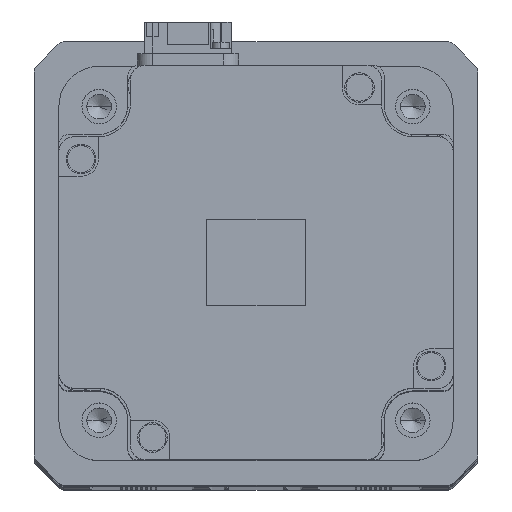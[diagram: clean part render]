
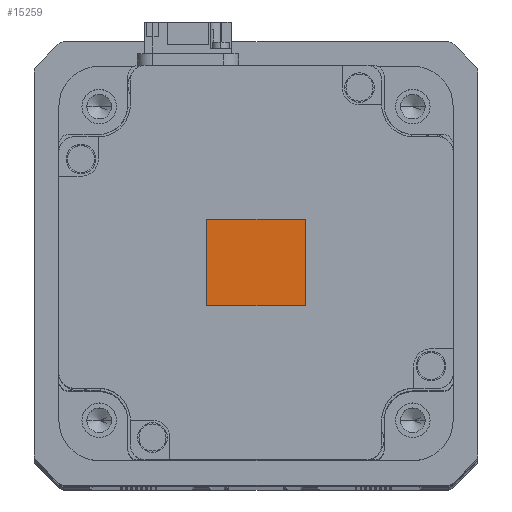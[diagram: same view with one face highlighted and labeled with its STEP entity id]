
A CAD part, top view. The second image highlights one B-rep face of the part: STEP entity #15259.
In plain terms, the highlighted planar face has unit normal (0, 0, 1) as drawn and (0, 0, -1) by its records, which use the part's own axes.
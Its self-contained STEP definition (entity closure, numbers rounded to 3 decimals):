
#109 = CARTESIAN_POINT ( 'NONE',  ( -10., -8.75, -115.1 ) ) ;
#1068 = CARTESIAN_POINT ( 'NONE',  ( 10., -8.75, -115.1 ) ) ;
#2951 = DIRECTION ( 'NONE',  ( 0., 0., -1. ) ) ;
#3345 = ORIENTED_EDGE ( 'NONE', *, *, #5284, .T. ) ;
#3794 = CARTESIAN_POINT ( 'NONE',  ( 10., 8.75, -115.1 ) ) ;
#4168 = EDGE_LOOP ( 'NONE', ( #39189, #18584, #7467, #3345 ) ) ;
#5284 = EDGE_CURVE ( 'NONE', #35318, #37036, #8235, .T. ) ;
#5741 = DIRECTION ( 'NONE',  ( 0., 1., 0. ) ) ;
#7467 = ORIENTED_EDGE ( 'NONE', *, *, #37673, .T. ) ;
#8225 = EDGE_CURVE ( 'NONE', #37036, #33849, #33097, .T. ) ;
#8235 = LINE ( 'NONE', #31434, #25689 ) ;
#13544 = VECTOR ( 'NONE', #31714, 1000. ) ;
#14444 = VERTEX_POINT ( 'NONE', #43829 ) ;
#15259 = ADVANCED_FACE ( 'NONE', ( #24466 ), #30726, .T. ) ;
#16874 = CARTESIAN_POINT ( 'NONE',  ( -10., 8.75, -115.1 ) ) ;
#18386 = DIRECTION ( 'NONE',  ( 1., 0., 0. ) ) ;
#18584 = ORIENTED_EDGE ( 'NONE', *, *, #20587, .T. ) ;
#20587 = EDGE_CURVE ( 'NONE', #33849, #14444, #45278, .T. ) ;
#22780 = LINE ( 'NONE', #3794, #13544 ) ;
#23787 = VECTOR ( 'NONE', #5741, 1000. ) ;
#23837 = CARTESIAN_POINT ( 'NONE',  ( 10., -8.75, -115.1 ) ) ;
#24466 = FACE_OUTER_BOUND ( 'NONE', #4168, .T. ) ;
#25689 = VECTOR ( 'NONE', #27931, 1000. ) ;
#25863 = CARTESIAN_POINT ( 'NONE',  ( -10., 8.75, -115.1 ) ) ;
#27360 = DIRECTION ( 'NONE',  ( -1., 0., 0. ) ) ;
#27931 = DIRECTION ( 'NONE',  ( -1., 0., 0. ) ) ;
#30726 = PLANE ( 'NONE',  #36058 ) ;
#31434 = CARTESIAN_POINT ( 'NONE',  ( 10., -8.75, -115.1 ) ) ;
#31714 = DIRECTION ( 'NONE',  ( 0., -1., 0. ) ) ;
#33097 = LINE ( 'NONE', #25863, #23787 ) ;
#33849 = VERTEX_POINT ( 'NONE', #16874 ) ;
#35318 = VERTEX_POINT ( 'NONE', #1068 ) ;
#36058 = AXIS2_PLACEMENT_3D ( 'NONE', #23837, #2951, #27360 ) ;
#37036 = VERTEX_POINT ( 'NONE', #109 ) ;
#37673 = EDGE_CURVE ( 'NONE', #14444, #35318, #22780, .T. ) ;
#39189 = ORIENTED_EDGE ( 'NONE', *, *, #8225, .T. ) ;
#42866 = CARTESIAN_POINT ( 'NONE',  ( 10., 8.75, -115.1 ) ) ;
#43829 = CARTESIAN_POINT ( 'NONE',  ( 10., 8.75, -115.1 ) ) ;
#44168 = VECTOR ( 'NONE', #18386, 1000. ) ;
#45278 = LINE ( 'NONE', #42866, #44168 ) ;
